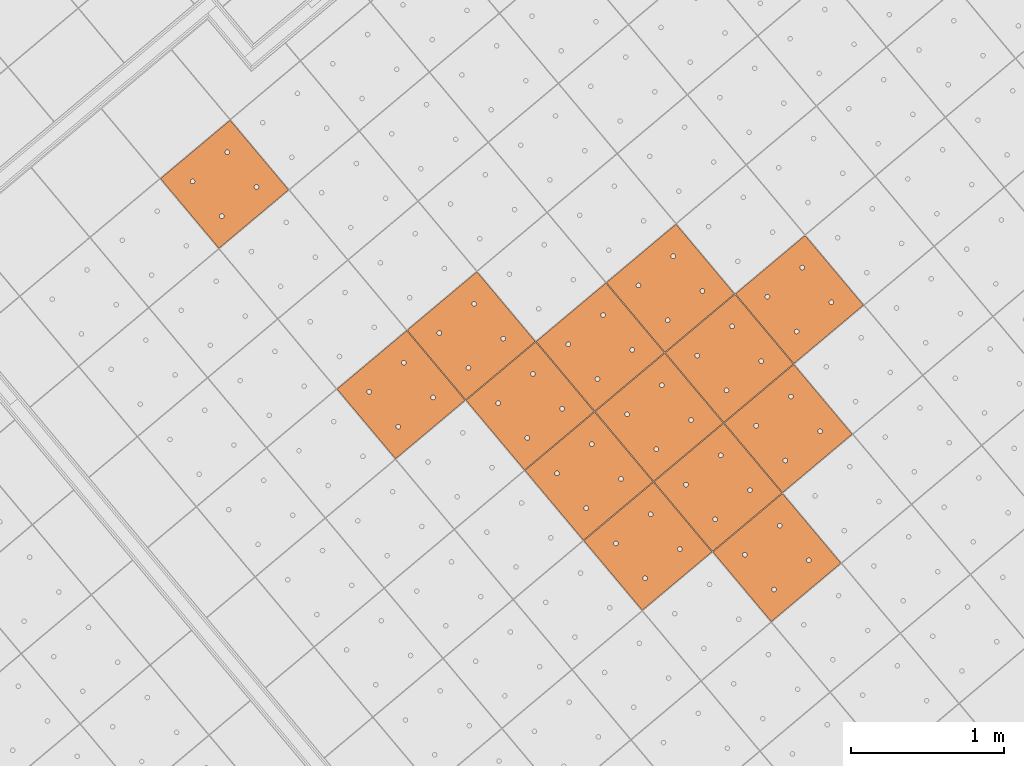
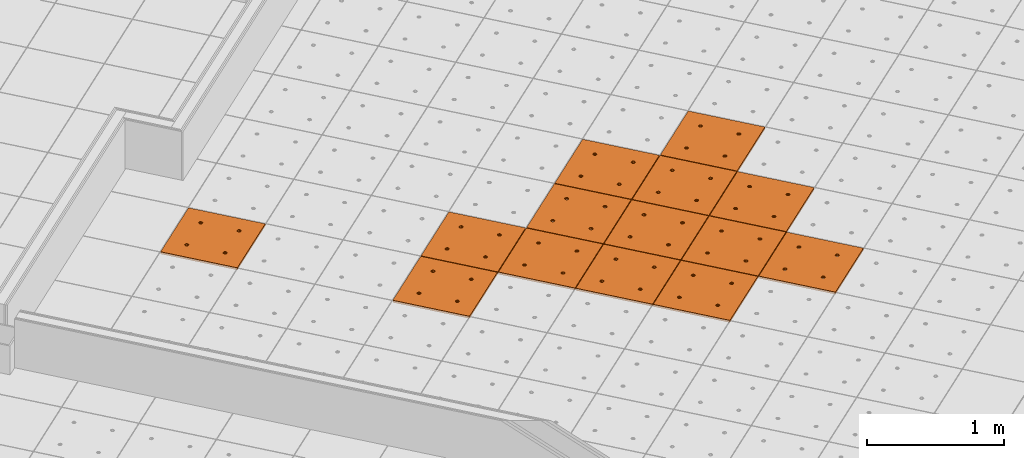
# One storey, part 184 of 338: 14 proxies, 1 element without a shape of its own.
"""IFC2X3 building model written with IfcOpenShell, lengths in millimetres."""

from ifc_helpers import new_model, entity, si_unit, converted_unit, derived_unit, money_unit, direction, frame, origin_with_axes, place, context, subcontext, project, spatial, faceted_brep, source, transform, mapped, material, type_object, type_shapes, element, aggregate, save


model = new_model("IFC2X3")

# Units and contexts
model_context = context("Model", 3, precision=0.01, world=origin_with_axes(), true_north=direction((0.0, 1.0)))
plan_context = context("Plan", 3, precision=0.01, world=origin_with_axes(), true_north=direction((0.0, 1.0)))
body_context = subcontext(model_context, "Body", "Model", "MODEL_VIEW")
ifc_project = project(units=[si_unit("LENGTHUNIT", "METRE", prefix="MILLI"), si_unit("AREAUNIT", "SQUARE_METRE"), si_unit("VOLUMEUNIT", "CUBIC_METRE"), converted_unit("PLANEANGLEUNIT", "DEGREE", entity("IfcPlaneAngleMeasure", 0.0174532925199), si_unit("PLANEANGLEUNIT", "RADIAN"), dimensions=[0, 0, 0, 0, 0, 0, 0]), money_unit("EUR"), converted_unit("TIMEUNIT", "Year", entity("IfcTimeMeasure", 31556926.0), si_unit("TIMEUNIT", "SECOND"), dimensions=[0, 0, 1, 0, 0, 0, 0]), si_unit("MASSUNIT", "GRAM", prefix="KILO"), si_unit("THERMODYNAMICTEMPERATUREUNIT", "DEGREE_CELSIUS"), si_unit("LUMINOUSINTENSITYUNIT", "LUMEN"), si_unit("ENERGYUNIT", "JOULE", prefix="MEGA"), derived_unit("THERMALCONDUCTANCEUNIT", [(si_unit("POWERUNIT", "WATT"), 1), (si_unit("LENGTHUNIT", "METRE"), -1), (si_unit("THERMODYNAMICTEMPERATUREUNIT", "KELVIN"), -1)]), derived_unit("SPECIFICHEATCAPACITYUNIT", [(si_unit("ENERGYUNIT", "JOULE"), 1), (si_unit("MASSUNIT", "GRAM", prefix="KILO"), -1), (si_unit("THERMODYNAMICTEMPERATUREUNIT", "KELVIN"), -1)]), derived_unit("MASSDENSITYUNIT", [(si_unit("MASSUNIT", "GRAM", prefix="KILO"), 1), (si_unit("VOLUMEUNIT", "CUBIC_METRE"), -1)])], contexts=[model_context, plan_context])

# Site, building, storey
site_placement = place(None, origin_with_axes())
site = spatial("IfcSite", under=ifc_project, at=site_placement, Name="Fortuinstraat Woensdrecht", CompositionType="ELEMENT")
building_placement = place(site_placement, origin_with_axes())
building = spatial("IfcBuilding", under=site, at=building_placement, Name="IKC Fortuna", CompositionType="ELEMENT")
storey_placement = place(building_placement, origin_with_axes())
storey = spatial("IfcBuildingStorey", under=building, at=storey_placement, Name="00 begane grond", CompositionType="ELEMENT", Elevation=0.0)

# Covering, proxies
covering_type = type_object("IfcCoveringType", Name="Curtain Wall Type", PredefinedType="CEILING")
covering_placement = place(storey_placement, frame((19785.7448517, -11392.5753808, 4660.0), z_axis=(0.0, 0.0, 1.0), x_axis=(1.0, 0.0, 0.0)))
covering = element("IfcCovering", 1, at=covering_placement, inside=storey, type_object=covering_type, Name="45_Plafondafwerking_P01", PredefinedType="CEILING")
ifc_material = material(Name="Gipsplaat")
building_element_proxy_type = type_object("IfcBuildingElementProxyType", Name="Main Panel 600 x 600 x 20", PredefinedType="NOTDEFINED")
shared_shape = source(origin_with_axes(), body_context, "Body", "Brep", [
    faceted_brep([(2.49999999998, 2.49999999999, -10.0), (300.0, 2.49999999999, -10.0), (300.0, 2.49999999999, 10.0), (2.49999999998, 2.49999999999, 10.0), (2.49999999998, 300.0, -10.0), (2.49999999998, 597.5, -10.0), (300.0, 597.5, -10.0), (597.5, 597.5, -10.0), (597.5, 300.0, -10.0), (597.5, 2.49999999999, -10.0), (166.25, 450.06232995, -10.0), (165.79423259, 452.64711538, -10.0), (164.896546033, 455.11348892, -10.0), (163.58421608, 457.38651108, -10.0), (161.897117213, 459.39711721, -10.0), (159.886511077, 461.08421608, -10.0), (157.613488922, 462.39654603, -10.0), (155.147115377, 463.29423259, -10.0), (152.562329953, 463.75, -10.0), (149.937670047, 463.75, -10.0), (147.352884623, 463.29423259, -10.0), (144.886511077, 462.39654603, -10.0), (142.613488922, 461.08421608, -10.0), (140.602882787, 459.39711721, -10.0), (138.91578392, 457.38651108, -10.0), (137.603453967, 455.11348892, -10.0), (136.705767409, 452.64711538, -10.0), (136.25, 450.06232995, -10.0), (136.25, 448.75, -10.0), (136.25, 447.43767005, -10.0), (136.705767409, 444.85288462, -10.0), (137.603453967, 442.38651108, -10.0), (138.91578392, 440.11348892, -10.0), (140.602882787, 438.10288279, -10.0), (142.613488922, 436.41578392, -10.0), (144.886511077, 435.10345397, -10.0), (147.352884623, 434.20576741, -10.0), (149.937670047, 433.75, -10.0), (152.562329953, 433.75, -10.0), (155.147115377, 434.20576741, -10.0), (157.613488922, 435.10345397, -10.0), (159.886511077, 436.41578392, -10.0), (161.897117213, 438.10288279, -10.0), (163.58421608, 440.11348892, -10.0), (164.896546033, 442.38651108, -10.0), (165.79423259, 444.85288462, -10.0), (166.25, 447.43767005, -10.0), (463.75, 450.06232995, -10.0), (463.29423259, 452.64711538, -10.0), (462.396546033, 455.11348892, -10.0), (461.08421608, 457.38651108, -10.0), (459.397117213, 459.39711721, -10.0), (457.386511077, 461.08421608, -10.0), (455.113488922, 462.39654603, -10.0), (452.647115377, 463.29423259, -10.0), (450.062329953, 463.75, -10.0), (447.437670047, 463.75, -10.0), (444.852884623, 463.29423259, -10.0), (442.386511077, 462.39654603, -10.0), (440.113488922, 461.08421608, -10.0), (438.102882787, 459.39711721, -10.0), (436.41578392, 457.38651108, -10.0), (435.103453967, 455.11348892, -10.0), (434.205767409, 452.64711538, -10.0), (433.75, 450.06232995, -10.0), (433.75, 448.75, -10.0), (433.75, 447.43767005, -10.0), (434.205767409, 444.85288462, -10.0), (435.103453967, 442.38651108, -10.0), (436.41578392, 440.11348892, -10.0), (438.102882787, 438.10288279, -10.0), (440.113488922, 436.41578392, -10.0), (442.386511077, 435.10345397, -10.0), (444.852884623, 434.20576741, -10.0), (447.437670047, 433.75, -10.0), (450.062329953, 433.75, -10.0), (452.647115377, 434.20576741, -10.0), (455.113488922, 435.10345397, -10.0), (457.386511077, 436.41578392, -10.0), (459.397117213, 438.10288279, -10.0), (461.08421608, 440.11348892, -10.0), (462.396546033, 442.38651108, -10.0), (463.29423259, 444.85288462, -10.0), (463.75, 447.43767005, -10.0), (463.75, 152.56232995, -10.0), (463.29423259, 155.14711538, -10.0), (462.396546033, 157.61348892, -10.0), (461.08421608, 159.88651108, -10.0), (459.397117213, 161.89711721, -10.0), (457.386511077, 163.58421608, -10.0), (455.113488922, 164.89654603, -10.0), (452.647115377, 165.79423259, -10.0), (450.062329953, 166.25, -10.0), (447.437670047, 166.25, -10.0), (444.852884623, 165.79423259, -10.0), (442.386511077, 164.89654603, -10.0), (440.113488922, 163.58421608, -10.0), (438.102882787, 161.89711721, -10.0), (436.41578392, 159.88651108, -10.0), (435.103453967, 157.61348892, -10.0), (434.205767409, 155.14711538, -10.0), (433.75, 152.56232995, -10.0), (433.75, 151.25, -10.0), (433.75, 149.93767005, -10.0), (434.205767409, 147.35288462, -10.0), (435.103453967, 144.88651108, -10.0), (436.41578392, 142.61348892, -10.0), (438.102882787, 140.60288279, -10.0), (440.113488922, 138.91578392, -10.0), (442.386511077, 137.60345397, -10.0), (444.852884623, 136.70576741, -10.0), (447.437670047, 136.25, -10.0), (450.062329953, 136.25, -10.0), (452.647115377, 136.70576741, -10.0), (455.113488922, 137.60345397, -10.0), (457.386511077, 138.91578392, -10.0), (459.397117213, 140.60288279, -10.0), (461.08421608, 142.61348892, -10.0), (462.396546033, 144.88651108, -10.0), (463.29423259, 147.35288462, -10.0), (463.75, 149.93767005, -10.0), (166.25, 152.56232995, -10.0), (165.79423259, 155.14711538, -10.0), (164.896546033, 157.61348892, -10.0), (163.58421608, 159.88651108, -10.0), (161.897117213, 161.89711721, -10.0), (159.886511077, 163.58421608, -10.0), (157.613488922, 164.89654603, -10.0), (155.147115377, 165.79423259, -10.0), (152.562329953, 166.25, -10.0), (149.937670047, 166.25, -10.0), (147.352884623, 165.79423259, -10.0), (144.886511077, 164.89654603, -10.0), (142.613488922, 163.58421608, -10.0), (140.602882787, 161.89711721, -10.0), (138.91578392, 159.88651108, -10.0), (137.603453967, 157.61348892, -10.0), (136.705767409, 155.14711538, -10.0), (136.25, 152.56232995, -10.0), (136.25, 151.25, -10.0), (136.25, 149.93767005, -10.0), (136.705767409, 147.35288462, -10.0), (137.603453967, 144.88651108, -10.0), (138.91578392, 142.61348892, -10.0), (140.602882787, 140.60288279, -10.0), (142.613488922, 138.91578392, -10.0), (144.886511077, 137.60345397, -10.0), (147.352884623, 136.70576741, -10.0), (149.937670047, 136.25, -10.0), (152.562329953, 136.25, -10.0), (155.147115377, 136.70576741, -10.0), (157.613488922, 137.60345397, -10.0), (159.886511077, 138.91578392, -10.0), (161.897117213, 140.60288279, -10.0), (163.58421608, 142.61348892, -10.0), (164.896546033, 144.88651108, -10.0), (165.79423259, 147.35288462, -10.0), (166.25, 149.93767005, -10.0), (597.5, 2.49999999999, 10.0), (597.5, 300.0, 10.0), (597.5, 597.5, 10.0), (300.0, 597.5, 10.0), (2.49999999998, 597.5, 10.0), (2.49999999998, 300.0, 10.0), (166.25, 450.06232995, 10.0), (166.25, 447.43767005, 10.0), (165.79423259, 444.85288462, 10.0), (164.896546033, 442.38651108, 10.0), (163.58421608, 440.11348892, 10.0), (161.897117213, 438.10288279, 10.0), (159.886511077, 436.41578392, 10.0), (157.613488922, 435.10345397, 10.0), (155.147115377, 434.20576741, 10.0), (152.562329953, 433.75, 10.0), (149.937670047, 433.75, 10.0), (147.352884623, 434.20576741, 10.0), (144.886511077, 435.10345397, 10.0), (142.613488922, 436.41578392, 10.0), (140.602882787, 438.10288279, 10.0), (138.91578392, 440.11348892, 10.0), (137.603453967, 442.38651108, 10.0), (136.705767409, 444.85288462, 10.0), (136.25, 447.43767005, 10.0), (136.25, 448.75, 10.0), (136.25, 450.06232995, 10.0), (136.705767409, 452.64711538, 10.0), (137.603453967, 455.11348892, 10.0), (138.91578392, 457.38651108, 10.0), (140.602882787, 459.39711721, 10.0), (142.613488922, 461.08421608, 10.0), (144.886511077, 462.39654603, 10.0), (147.352884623, 463.29423259, 10.0), (149.937670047, 463.75, 10.0), (152.562329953, 463.75, 10.0), (155.147115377, 463.29423259, 10.0), (157.613488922, 462.39654603, 10.0), (159.886511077, 461.08421608, 10.0), (161.897117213, 459.39711721, 10.0), (163.58421608, 457.38651108, 10.0), (164.896546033, 455.11348892, 10.0), (165.79423259, 452.64711538, 10.0), (463.75, 450.06232995, 10.0), (463.75, 447.43767005, 10.0), (463.29423259, 444.85288462, 10.0), (462.396546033, 442.38651108, 10.0), (461.08421608, 440.11348892, 10.0), (459.397117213, 438.10288279, 10.0), (457.386511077, 436.41578392, 10.0), (455.113488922, 435.10345397, 10.0), (452.647115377, 434.20576741, 10.0), (450.062329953, 433.75, 10.0), (447.437670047, 433.75, 10.0), (444.852884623, 434.20576741, 10.0), (442.386511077, 435.10345397, 10.0), (440.113488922, 436.41578392, 10.0), (438.102882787, 438.10288279, 10.0), (436.41578392, 440.11348892, 10.0), (435.103453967, 442.38651108, 10.0), (434.205767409, 444.85288462, 10.0), (433.75, 447.43767005, 10.0), (433.75, 448.75, 10.0), (433.75, 450.06232995, 10.0), (434.205767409, 452.64711538, 10.0), (435.103453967, 455.11348892, 10.0), (436.41578392, 457.38651108, 10.0), (438.102882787, 459.39711721, 10.0), (440.113488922, 461.08421608, 10.0), (442.386511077, 462.39654603, 10.0), (444.852884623, 463.29423259, 10.0), (447.437670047, 463.75, 10.0), (450.062329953, 463.75, 10.0), (452.647115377, 463.29423259, 10.0), (455.113488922, 462.39654603, 10.0), (457.386511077, 461.08421608, 10.0), (459.397117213, 459.39711721, 10.0), (461.08421608, 457.38651108, 10.0), (462.396546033, 455.11348892, 10.0), (463.29423259, 452.64711538, 10.0), (463.75, 152.56232995, 10.0), (463.75, 149.93767005, 10.0), (463.29423259, 147.35288462, 10.0), (462.396546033, 144.88651108, 10.0), (461.08421608, 142.61348892, 10.0), (459.397117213, 140.60288279, 10.0), (457.386511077, 138.91578392, 10.0), (455.113488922, 137.60345397, 10.0), (452.647115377, 136.70576741, 10.0), (450.062329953, 136.25, 10.0), (447.437670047, 136.25, 10.0), (444.852884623, 136.70576741, 10.0), (442.386511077, 137.60345397, 10.0), (440.113488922, 138.91578392, 10.0), (438.102882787, 140.60288279, 10.0), (436.41578392, 142.61348892, 10.0), (435.103453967, 144.88651108, 10.0), (434.205767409, 147.35288462, 10.0), (433.75, 149.93767005, 10.0), (433.75, 151.25, 10.0), (433.75, 152.56232995, 10.0), (434.205767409, 155.14711538, 10.0), (435.103453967, 157.61348892, 10.0), (436.41578392, 159.88651108, 10.0), (438.102882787, 161.89711721, 10.0), (440.113488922, 163.58421608, 10.0), (442.386511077, 164.89654603, 10.0), (444.852884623, 165.79423259, 10.0), (447.437670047, 166.25, 10.0), (450.062329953, 166.25, 10.0), (452.647115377, 165.79423259, 10.0), (455.113488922, 164.89654603, 10.0), (457.386511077, 163.58421608, 10.0), (459.397117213, 161.89711721, 10.0), (461.08421608, 159.88651108, 10.0), (462.396546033, 157.61348892, 10.0), (463.29423259, 155.14711538, 10.0), (166.25, 152.56232995, 10.0), (166.25, 149.93767005, 10.0), (165.79423259, 147.35288462, 10.0), (164.896546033, 144.88651108, 10.0), (163.58421608, 142.61348892, 10.0), (161.897117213, 140.60288279, 10.0), (159.886511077, 138.91578392, 10.0), (157.613488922, 137.60345397, 10.0), (155.147115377, 136.70576741, 10.0), (152.562329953, 136.25, 10.0), (149.937670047, 136.25, 10.0), (147.352884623, 136.70576741, 10.0), (144.886511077, 137.60345397, 10.0), (142.613488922, 138.91578392, 10.0), (140.602882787, 140.60288279, 10.0), (138.91578392, 142.61348892, 10.0), (137.603453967, 144.88651108, 10.0), (136.705767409, 147.35288462, 10.0), (136.25, 149.93767005, 10.0), (136.25, 151.25, 10.0), (136.25, 152.56232995, 10.0), (136.705767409, 155.14711538, 10.0), (137.603453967, 157.61348892, 10.0), (138.91578392, 159.88651108, 10.0), (140.602882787, 161.89711721, 10.0), (142.613488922, 163.58421608, 10.0), (144.886511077, 164.89654603, 10.0), (147.352884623, 165.79423259, 10.0), (149.937670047, 166.25, 10.0), (152.562329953, 166.25, 10.0), (155.147115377, 165.79423259, 10.0), (157.613488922, 164.89654603, 10.0), (159.886511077, 163.58421608, 10.0), (161.897117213, 161.89711721, 10.0), (163.58421608, 159.88651108, 10.0), (164.896546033, 157.61348892, 10.0), (165.79423259, 155.14711538, 10.0)], [[[0, 1, 2, 3]], [[0, 4, 5, 6, 7, 8, 9, 1], [10, 11, 12, 13, 14, 15, 16, 17, 18, 19, 20, 21, 22, 23, 24, 25, 26, 27, 28, 29, 30, 31, 32, 33, 34, 35, 36, 37, 38, 39, 40, 41, 42, 43, 44, 45, 46], [47, 48, 49, 50, 51, 52, 53, 54, 55, 56, 57, 58, 59, 60, 61, 62, 63, 64, 65, 66, 67, 68, 69, 70, 71, 72, 73, 74, 75, 76, 77, 78, 79, 80, 81, 82, 83], [84, 85, 86, 87, 88, 89, 90, 91, 92, 93, 94, 95, 96, 97, 98, 99, 100, 101, 102, 103, 104, 105, 106, 107, 108, 109, 110, 111, 112, 113, 114, 115, 116, 117, 118, 119, 120], [121, 122, 123, 124, 125, 126, 127, 128, 129, 130, 131, 132, 133, 134, 135, 136, 137, 138, 139, 140, 141, 142, 143, 144, 145, 146, 147, 148, 149, 150, 151, 152, 153, 154, 155, 156, 157]], [[1, 9, 158, 2]], [[3, 2, 158, 159, 160, 161, 162, 163], [164, 165, 166, 167, 168, 169, 170, 171, 172, 173, 174, 175, 176, 177, 178, 179, 180, 181, 182, 183, 184, 185, 186, 187, 188, 189, 190, 191, 192, 193, 194, 195, 196, 197, 198, 199, 200], [201, 202, 203, 204, 205, 206, 207, 208, 209, 210, 211, 212, 213, 214, 215, 216, 217, 218, 219, 220, 221, 222, 223, 224, 225, 226, 227, 228, 229, 230, 231, 232, 233, 234, 235, 236, 237], [238, 239, 240, 241, 242, 243, 244, 245, 246, 247, 248, 249, 250, 251, 252, 253, 254, 255, 256, 257, 258, 259, 260, 261, 262, 263, 264, 265, 266, 267, 268, 269, 270, 271, 272, 273, 274], [275, 276, 277, 278, 279, 280, 281, 282, 283, 284, 285, 286, 287, 288, 289, 290, 291, 292, 293, 294, 295, 296, 297, 298, 299, 300, 301, 302, 303, 304, 305, 306, 307, 308, 309, 310, 311]], [[4, 0, 3, 163]], [[5, 4, 163, 162]], [[6, 5, 162, 161]], [[7, 6, 161, 160]], [[8, 7, 160, 159]], [[9, 8, 159, 158]], [[11, 10, 164, 200]], [[12, 11, 200, 199]], [[13, 12, 199, 198]], [[14, 13, 198, 197]], [[15, 14, 197, 196]], [[16, 15, 196, 195]], [[17, 16, 195, 194]], [[18, 17, 194, 193]], [[19, 18, 193, 192]], [[20, 19, 192, 191]], [[21, 20, 191, 190]], [[22, 21, 190, 189]], [[23, 22, 189, 188]], [[24, 23, 188, 187]], [[25, 24, 187, 186]], [[26, 25, 186, 185]], [[27, 26, 185, 184]], [[28, 27, 184, 183]], [[29, 28, 183, 182]], [[30, 29, 182, 181]], [[31, 30, 181, 180]], [[32, 31, 180, 179]], [[33, 32, 179, 178]], [[34, 33, 178, 177]], [[35, 34, 177, 176]], [[36, 35, 176, 175]], [[37, 36, 175, 174]], [[38, 37, 174, 173]], [[39, 38, 173, 172]], [[40, 39, 172, 171]], [[41, 40, 171, 170]], [[42, 41, 170, 169]], [[43, 42, 169, 168]], [[44, 43, 168, 167]], [[45, 44, 167, 166]], [[46, 45, 166, 165]], [[10, 46, 165, 164]], [[48, 47, 201, 237]], [[49, 48, 237, 236]], [[50, 49, 236, 235]], [[51, 50, 235, 234]], [[52, 51, 234, 233]], [[53, 52, 233, 232]], [[54, 53, 232, 231]], [[55, 54, 231, 230]], [[56, 55, 230, 229]], [[57, 56, 229, 228]], [[58, 57, 228, 227]], [[59, 58, 227, 226]], [[60, 59, 226, 225]], [[61, 60, 225, 224]], [[62, 61, 224, 223]], [[63, 62, 223, 222]], [[64, 63, 222, 221]], [[65, 64, 221, 220]], [[66, 65, 220, 219]], [[67, 66, 219, 218]], [[68, 67, 218, 217]], [[69, 68, 217, 216]], [[70, 69, 216, 215]], [[71, 70, 215, 214]], [[72, 71, 214, 213]], [[73, 72, 213, 212]], [[74, 73, 212, 211]], [[75, 74, 211, 210]], [[76, 75, 210, 209]], [[77, 76, 209, 208]], [[78, 77, 208, 207]], [[79, 78, 207, 206]], [[80, 79, 206, 205]], [[81, 80, 205, 204]], [[82, 81, 204, 203]], [[83, 82, 203, 202]], [[47, 83, 202, 201]], [[85, 84, 238, 274]], [[86, 85, 274, 273]], [[87, 86, 273, 272]], [[88, 87, 272, 271]], [[89, 88, 271, 270]], [[90, 89, 270, 269]], [[91, 90, 269, 268]], [[92, 91, 268, 267]], [[93, 92, 267, 266]], [[94, 93, 266, 265]], [[95, 94, 265, 264]], [[96, 95, 264, 263]], [[97, 96, 263, 262]], [[98, 97, 262, 261]], [[99, 98, 261, 260]], [[100, 99, 260, 259]], [[101, 100, 259, 258]], [[102, 101, 258, 257]], [[103, 102, 257, 256]], [[104, 103, 256, 255]], [[105, 104, 255, 254]], [[106, 105, 254, 253]], [[107, 106, 253, 252]], [[108, 107, 252, 251]], [[109, 108, 251, 250]], [[110, 109, 250, 249]], [[111, 110, 249, 248]], [[112, 111, 248, 247]], [[113, 112, 247, 246]], [[114, 113, 246, 245]], [[115, 114, 245, 244]], [[116, 115, 244, 243]], [[117, 116, 243, 242]], [[118, 117, 242, 241]], [[119, 118, 241, 240]], [[120, 119, 240, 239]], [[84, 120, 239, 238]], [[122, 121, 275, 311]], [[123, 122, 311, 310]], [[124, 123, 310, 309]], [[125, 124, 309, 308]], [[126, 125, 308, 307]], [[127, 126, 307, 306]], [[128, 127, 306, 305]], [[129, 128, 305, 304]], [[130, 129, 304, 303]], [[131, 130, 303, 302]], [[132, 131, 302, 301]], [[133, 132, 301, 300]], [[134, 133, 300, 299]], [[135, 134, 299, 298]], [[136, 135, 298, 297]], [[137, 136, 297, 296]], [[138, 137, 296, 295]], [[139, 138, 295, 294]], [[140, 139, 294, 293]], [[141, 140, 293, 292]], [[142, 141, 292, 291]], [[143, 142, 291, 290]], [[144, 143, 290, 289]], [[145, 144, 289, 288]], [[146, 145, 288, 287]], [[147, 146, 287, 286]], [[148, 147, 286, 285]], [[149, 148, 285, 284]], [[150, 149, 284, 283]], [[151, 150, 283, 282]], [[152, 151, 282, 281]], [[153, 152, 281, 280]], [[154, 153, 280, 279]], [[155, 154, 279, 278]], [[156, 155, 278, 277]], [[157, 156, 277, 276]], [[121, 157, 276, 275]]]),
])
type_shapes(building_element_proxy_type, [shared_shape])
proxy_1_placement = place(covering_placement, frame((-2527.66292313, 5670.69124601, 1.80300219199e-10), z_axis=(0.0, 0.0, 1.0), x_axis=(1.0, 0.0, 0.0)))
proxy_1 = element("IfcBuildingElementProxy", 2, at=proxy_1_placement, type_object=building_element_proxy_type, material=ifc_material, Name="__600x610 Rockfon Krios", context=body_context, shape_type="MappedRepresentation", body=[
    mapped(shared_shape, transform((36.9769427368, 422.649625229, 0.0), x_axis=(-0.766044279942, -0.642787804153, 0.0), y_axis=(0.642787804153, -0.766044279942, 0.0), z_axis=(0.0, 0.0, 1.0))),
])
proxy_2_placement = place(covering_placement, frame((-1370.64487565, 4291.81154211, 1.80300219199e-10), z_axis=(0.0, 0.0, 1.0), x_axis=(1.0, 0.0, 0.0)))
proxy_2 = element("IfcBuildingElementProxy", 3, at=proxy_2_placement, type_object=building_element_proxy_type, material=ifc_material, Name="__600x656 Rockfon Krios", context=body_context, shape_type="MappedRepresentation", body=[
    mapped(shared_shape, transform((36.9769427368, 422.649625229, 0.0), x_axis=(-0.766044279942, -0.642787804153, 0.0), y_axis=(0.642787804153, -0.766044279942, 0.0), z_axis=(0.0, 0.0, 1.0))),
])
proxy_3_placement = place(covering_placement, frame((245.99973979, 3298.60452071, 1.60760293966e-10), z_axis=(0.0, 0.0, 1.0), x_axis=(1.0, 0.0, 0.0)))
proxy_3 = element("IfcBuildingElementProxy", 4, at=proxy_3_placement, type_object=building_element_proxy_type, material=ifc_material, Name="__600x669 Rockfon Krios", context=body_context, shape_type="MappedRepresentation", body=[
    mapped(shared_shape, transform((36.9769427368, 422.649625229, 0.0), x_axis=(-0.766044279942, -0.642787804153, 0.0), y_axis=(0.642787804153, -0.766044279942, 0.0), z_axis=(0.0, 0.0, 1.0))),
])
proxy_4_placement = place(covering_placement, frame((-139.672942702, 3758.23108867, 1.60760293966e-10), z_axis=(0.0, 0.0, 1.0), x_axis=(1.0, 0.0, 0.0)))
proxy_4 = element("IfcBuildingElementProxy", 5, at=proxy_4_placement, type_object=building_element_proxy_type, material=ifc_material, Name="__600x699 Rockfon Krios", context=body_context, shape_type="MappedRepresentation", body=[
    mapped(shared_shape, transform((36.9769427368, 422.649625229, 0.0), x_axis=(-0.766044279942, -0.642787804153, 0.0), y_axis=(0.642787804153, -0.766044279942, 0.0), z_axis=(0.0, 0.0, 1.0))),
])
proxy_5_placement = place(covering_placement, frame((1239.20676119, 4915.24913615, 1.02140518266e-10), z_axis=(0.0, 0.0, 1.0), x_axis=(1.0, 0.0, 0.0)))
proxy_5 = element("IfcBuildingElementProxy", 6, at=proxy_5_placement, type_object=building_element_proxy_type, material=ifc_material, Name="__600x729 Rockfon Krios", context=body_context, shape_type="MappedRepresentation", body=[
    mapped(shared_shape, transform((36.9769427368, 422.649625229, 0.0), x_axis=(-0.766044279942, -0.642787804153, 0.0), y_axis=(0.642787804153, -0.766044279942, 0.0), z_axis=(0.0, 0.0, 1.0))),
])
proxy_6_placement = place(covering_placement, frame((393.907510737, 4989.20302162, 1.21680443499e-10), z_axis=(0.0, 0.0, 1.0), x_axis=(1.0, 0.0, 0.0)))
proxy_6 = element("IfcBuildingElementProxy", 7, at=proxy_6_placement, type_object=building_element_proxy_type, material=ifc_material, Name="__600x737 Rockfon Krios", context=body_context, shape_type="MappedRepresentation", body=[
    mapped(shared_shape, transform((36.9769427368, 422.649625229, 0.0), x_axis=(-0.766044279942, -0.642787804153, 0.0), y_axis=(0.642787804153, -0.766044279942, 0.0), z_axis=(0.0, 0.0, 1.0))),
])
proxy_7_placement = place(covering_placement, frame((779.580193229, 4529.57645366, 1.21680443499e-10), z_axis=(0.0, 0.0, 1.0), x_axis=(1.0, 0.0, 0.0)))
proxy_7 = element("IfcBuildingElementProxy", 8, at=proxy_7_placement, type_object=building_element_proxy_type, material=ifc_material, Name="__600x738 Rockfon Krios", context=body_context, shape_type="MappedRepresentation", body=[
    mapped(shared_shape, transform((36.9769427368, 422.649625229, 0.0), x_axis=(-0.766044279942, -0.642787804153, 0.0), y_axis=(0.642787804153, -0.766044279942, 0.0), z_axis=(0.0, 0.0, 1.0))),
])
proxy_8_placement = place(covering_placement, frame((1165.25287572, 4069.94988569, 1.21680443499e-10), z_axis=(0.0, 0.0, 1.0), x_axis=(1.0, 0.0, 0.0)))
proxy_8 = element("IfcBuildingElementProxy", 9, at=proxy_8_placement, type_object=building_element_proxy_type, material=ifc_material, Name="__600x739 Rockfon Krios", context=body_context, shape_type="MappedRepresentation", body=[
    mapped(shared_shape, transform((36.9769427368, 422.649625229, 0.0), x_axis=(-0.766044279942, -0.642787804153, 0.0), y_axis=(0.642787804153, -0.766044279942, 0.0), z_axis=(0.0, 0.0, 1.0))),
])
proxy_9_placement = place(covering_placement, frame((-65.7190572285, 4603.53033913, 1.41220368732e-10), z_axis=(0.0, 0.0, 1.0), x_axis=(1.0, 0.0, 0.0)))
proxy_9 = element("IfcBuildingElementProxy", 10, at=proxy_9_placement, type_object=building_element_proxy_type, material=ifc_material, Name="__600x746 Rockfon Krios", context=body_context, shape_type="MappedRepresentation", body=[
    mapped(shared_shape, transform((36.9769427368, 422.649625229, 0.0), x_axis=(-0.766044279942, -0.642787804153, 0.0), y_axis=(0.642787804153, -0.766044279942, 0.0), z_axis=(0.0, 0.0, 1.0))),
])
proxy_10_placement = place(covering_placement, frame((319.953625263, 4143.90377117, 1.41220368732e-10), z_axis=(0.0, 0.0, 1.0), x_axis=(1.0, 0.0, 0.0)))
proxy_10 = element("IfcBuildingElementProxy", 11, at=proxy_10_placement, type_object=building_element_proxy_type, material=ifc_material, Name="__600x747 Rockfon Krios", context=body_context, shape_type="MappedRepresentation", body=[
    mapped(shared_shape, transform((36.9769427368, 422.649625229, 0.0), x_axis=(-0.766044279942, -0.642787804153, 0.0), y_axis=(0.642787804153, -0.766044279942, 0.0), z_axis=(0.0, 0.0, 1.0))),
])
proxy_11_placement = place(covering_placement, frame((705.626307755, 3684.2772032, 1.41220368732e-10), z_axis=(0.0, 0.0, 1.0), x_axis=(1.0, 0.0, 0.0)))
proxy_11 = element("IfcBuildingElementProxy", 12, at=proxy_11_placement, type_object=building_element_proxy_type, material=ifc_material, Name="__600x748 Rockfon Krios", context=body_context, shape_type="MappedRepresentation", body=[
    mapped(shared_shape, transform((36.9769427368, 422.649625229, 0.0), x_axis=(-0.766044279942, -0.642787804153, 0.0), y_axis=(0.642787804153, -0.766044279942, 0.0), z_axis=(0.0, 0.0, 1.0))),
])
proxy_12_placement = place(covering_placement, frame((1091.29899025, 3224.65063524, 1.41220368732e-10), z_axis=(0.0, 0.0, 1.0), x_axis=(1.0, 0.0, 0.0)))
proxy_12 = element("IfcBuildingElementProxy", 13, at=proxy_12_placement, type_object=building_element_proxy_type, material=ifc_material, Name="__600x749 Rockfon Krios", context=body_context, shape_type="MappedRepresentation", body=[
    mapped(shared_shape, transform((36.9769427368, 422.649625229, 0.0), x_axis=(-0.766044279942, -0.642787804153, 0.0), y_axis=(0.642787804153, -0.766044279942, 0.0), z_axis=(0.0, 0.0, 1.0))),
])
proxy_13_placement = place(covering_placement, frame((-911.018307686, 4677.48422461, 1.60760293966e-10), z_axis=(0.0, 0.0, 1.0), x_axis=(1.0, 0.0, 0.0)))
proxy_13 = element("IfcBuildingElementProxy", 14, at=proxy_13_placement, type_object=building_element_proxy_type, material=ifc_material, Name="__600x754 Rockfon Krios", context=body_context, shape_type="MappedRepresentation", body=[
    mapped(shared_shape, transform((36.9769427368, 422.649625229, 0.0), x_axis=(-0.766044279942, -0.642787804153, 0.0), y_axis=(0.642787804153, -0.766044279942, 0.0), z_axis=(0.0, 0.0, 1.0))),
])
proxy_14_placement = place(covering_placement, frame((-525.345625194, 4217.85765664, 1.60760293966e-10), z_axis=(0.0, 0.0, 1.0), x_axis=(1.0, 0.0, 0.0)))
proxy_14 = element("IfcBuildingElementProxy", 15, at=proxy_14_placement, type_object=building_element_proxy_type, material=ifc_material, Name="__600x755 Rockfon Krios", context=body_context, shape_type="MappedRepresentation", body=[
    mapped(shared_shape, transform((36.9769427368, 422.649625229, 0.0), x_axis=(-0.766044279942, -0.642787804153, 0.0), y_axis=(0.642787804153, -0.766044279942, 0.0), z_axis=(0.0, 0.0, 1.0))),
])
aggregate(covering, [proxy_1, proxy_2, proxy_3, proxy_4, proxy_5, proxy_6, proxy_7, proxy_8, proxy_9, proxy_10, proxy_11, proxy_12, proxy_13, proxy_14])

save(model, "model.ifc")
